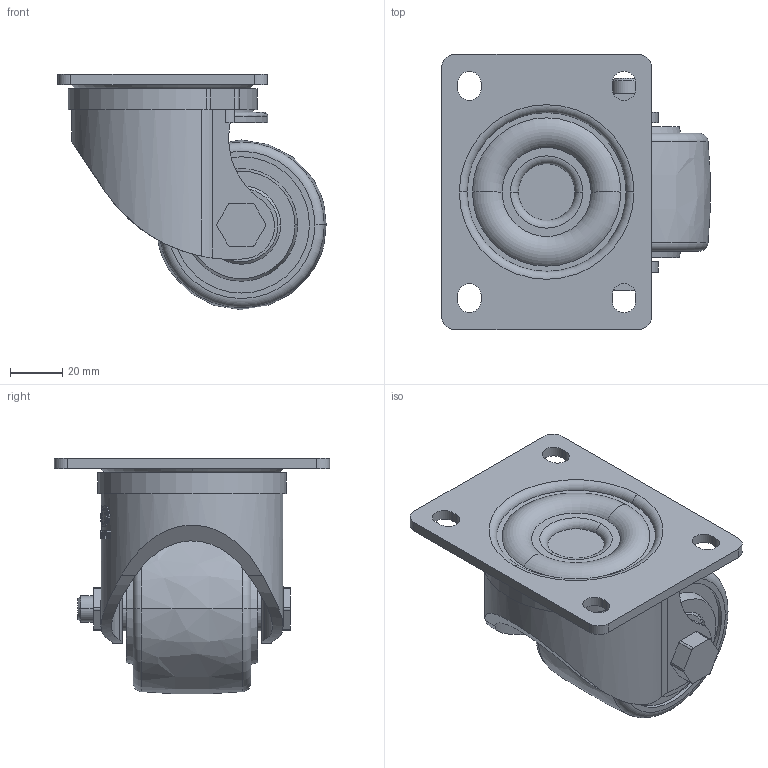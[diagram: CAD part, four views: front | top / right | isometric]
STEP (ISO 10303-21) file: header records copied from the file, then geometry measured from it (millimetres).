
FILE_DESCRIPTION(/* description */ (''),/* implementation_level */ '2;1');
FILE_NAME(/* name */ '30A22_2,5_F.stp',/* time_stamp */ '2022-10-07T08:09:55+08:00',/* author */ (''),/* organization */ (''),/* preprocessor_version */ 'ST-DEVELOPER v14',/* originating_system */ 'SIEMENS PLM Software NX 8.0',/* authorisation */ '');
FILE_SCHEMA (('AUTOMOTIVE_DESIGN { 1 0 10303 214 3 1 1 1 }'));
Length unit declared in the file: millimetre
Products named in the file (1): 30A22_2,5_F
Bounding box: 102.4 x 105 x 89.9 mm (x, y, z)
Volume: 223818.8 mm3; surface area: 67538.9 mm2
Topology: 1 solids, 6 shells, 430 faces, 1132 edges, 742 vertices
Faces by surface type: plane 222, cylinder 147, torus 27, cone 18, bspline 16
Entity records: 14392 total; most frequent: CARTESIAN_POINT 3504, DIRECTION 2357, ORIENTED_EDGE 2264, EDGE_CURVE 1132, AXIS2_PLACEMENT_3D 936, VERTEX_POINT 742, LINE 485, VECTOR 485
